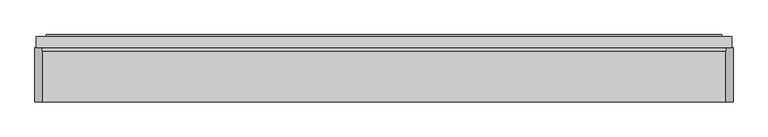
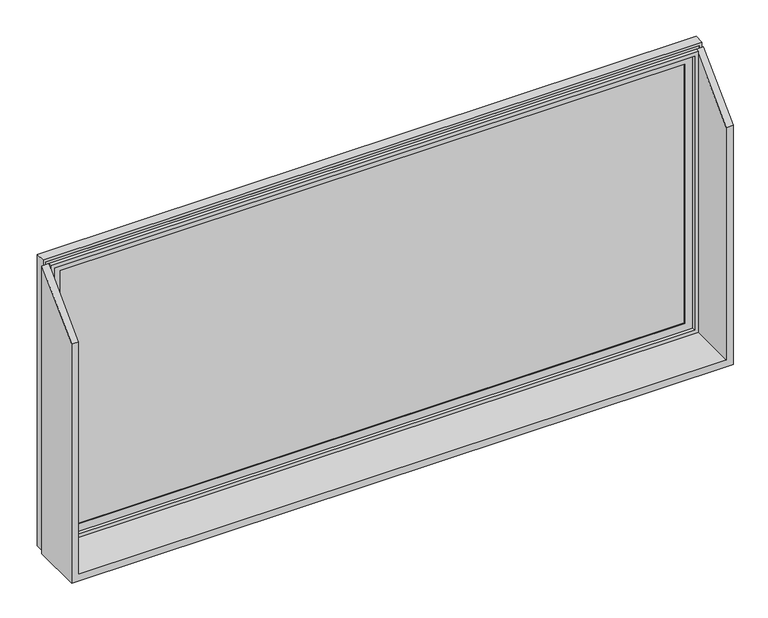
"""IFC4 building model written with IfcOpenShell, lengths in millimetres: plate geometry, SCISSOR PANEL : SCISSOR PANEL."""

from ifc_helpers import new_model, si_unit, frame, origin, place, context, project, spatial, polyline, outline, extrude, faceted_brep, source, transform, mapped, element, save


def plate_f63bed30(model_context):
    return source(origin(), model_context, "Body", "SolidModel", [
        faceted_brep([(850.0, 132.5, 0.0), (-850.0, 132.5, 0.0), (-850.0, 132.5, 782.5), (-832.5, 132.5, 782.5), (-832.5, 132.5, 17.5), (832.5, 132.5, 17.5), (832.5, 132.5, 782.5), (850.0, 132.5, 782.5), (-832.5, 0.0, 650.0), (-832.5, 0.0, 17.5), (832.5, 0.0, 17.5), (832.5, 0.0, 650.0), (850.0, 0.0, 650.0), (-850.0, 0.0, 650.0), (-850.0, 0.0, 0.0), (850.0, 0.0, 0.0)], [[[0, 1, 2, 3, 4, 5, 6, 7]], [[4, 3, 8, 9]], [[6, 5, 10, 11]], [[11, 12, 7, 6]], [[13, 8, 3, 2]], [[14, 15, 12, 11, 10, 9, 8, 13]], [[1, 14, 13, 2]], [[15, 14, 1, 0]], [[15, 0, 7, 12]], [[9, 10, 5, 4]]]),
        extrude(outline(polyline([(-819.5, 160.5), (819.5, 160.5), (819.5, 135.5), (-819.5, 135.5), (-819.5, 160.5)])), frame((0.0, 0.0, 30.5), z_axis=(0.0, 0.0, 1.0), x_axis=(1.0, 0.0, 0.0)), (0.0, 0.0, 1.0), 739.0),
        faceted_brep([(-802.5, 135.5, 752.5), (-802.5, 132.5, 752.5), (-802.5, 132.5, 47.5), (-802.5, 135.5, 47.5), (-819.5, 160.5, 769.5), (-819.5, 135.5, 769.5), (-819.5, 135.5, 30.5), (-819.5, 160.5, 30.5), (-802.5, 163.5, 752.5), (-802.5, 160.5, 752.5), (-802.5, 160.5, 47.5), (-802.5, 163.5, 47.5), (-822.5, 132.5, 772.5), (-822.5, 163.5, 772.5), (-822.5, 163.5, 27.5), (-822.5, 132.5, 27.5), (802.5, 132.5, 47.5), (802.5, 135.5, 47.5), (819.5, 135.5, 30.5), (819.5, 160.5, 30.5), (802.5, 160.5, 47.5), (802.5, 163.5, 47.5), (822.5, 163.5, 27.5), (822.5, 132.5, 27.5), (802.5, 132.5, 752.5), (802.5, 135.5, 752.5), (819.5, 135.5, 769.5), (819.5, 160.5, 769.5), (802.5, 160.5, 752.5), (802.5, 163.5, 752.5), (822.5, 163.5, 772.5), (822.5, 132.5, 772.5)], [[[0, 1, 2, 3]], [[4, 5, 6, 7]], [[8, 9, 10, 11]], [[12, 13, 14, 15]], [[3, 2, 16, 17]], [[7, 6, 18, 19]], [[11, 10, 20, 21]], [[15, 14, 22, 23]], [[17, 16, 24, 25]], [[19, 18, 26, 27]], [[21, 20, 28, 29]], [[23, 22, 30, 31]], [[15, 23, 31, 12], [1, 24, 16, 2]], [[25, 24, 1, 0]], [[5, 26, 18, 6], [3, 17, 25, 0]], [[27, 26, 5, 4]], [[7, 19, 27, 4], [9, 28, 20, 10]], [[29, 28, 9, 8]], [[13, 30, 22, 14], [11, 21, 29, 8]], [[31, 30, 13, 12]]]),
        faceted_brep([(-846.5, 132.5, 796.5), (-846.5, 158.75, 796.5), (-846.5, 158.75, 3.5), (-846.5, 132.5, 3.5), (-839.5, 150.0, 789.5), (-839.5, 132.5, 789.5), (-839.5, 132.5, 10.5), (-839.5, 150.0, 10.5), (-832.5, 123.75, 782.5), (-832.5, 150.0, 782.5), (-832.5, 150.0, 17.5), (-832.5, 123.75, 17.5), (-822.5, 158.75, 772.5), (-822.5, 123.75, 772.5), (-822.5, 123.75, 27.5), (-822.5, 158.75, 27.5), (846.5, 158.75, 3.5), (846.5, 132.5, 3.5), (839.5, 132.5, 10.5), (839.5, 150.0, 10.5), (832.5, 150.0, 17.5), (832.5, 123.75, 17.5), (822.5, 123.75, 27.5), (822.5, 158.75, 27.5), (846.5, 158.75, 796.5), (846.5, 132.5, 796.5), (839.5, 132.5, 789.5), (839.5, 150.0, 789.5), (832.5, 150.0, 782.5), (832.5, 123.75, 782.5), (822.5, 123.75, 772.5), (822.5, 158.75, 772.5)], [[[0, 1, 2, 3]], [[4, 5, 6, 7]], [[8, 9, 10, 11]], [[12, 13, 14, 15]], [[3, 2, 16, 17]], [[7, 6, 18, 19]], [[11, 10, 20, 21]], [[15, 14, 22, 23]], [[17, 16, 24, 25]], [[19, 18, 26, 27]], [[21, 20, 28, 29]], [[23, 22, 30, 31]], [[25, 24, 1, 0]], [[3, 17, 25, 0], [5, 26, 18, 6]], [[27, 26, 5, 4]], [[7, 19, 27, 4], [9, 28, 20, 10]], [[29, 28, 9, 8]], [[11, 21, 29, 8], [13, 30, 22, 14]], [[31, 30, 13, 12]], [[1, 24, 16, 2], [15, 23, 31, 12]]]),
        extrude(outline(polyline([(789.5, -839.5), (10.5, -839.5), (10.5, 839.5), (789.5, 839.5), (789.5, -839.5)]), holes=[polyline([(782.5, -832.5), (782.5, 832.5), (17.5, 832.5), (17.5, -832.5), (782.5, -832.5)])]), frame((0.0, 132.5, 0.0), z_axis=(0.0, 1.0, 0.0), x_axis=(0.0, 0.0, 1.0)), (0.0, 0.0, 1.0), 17.5),
    ])


if __name__ == "__main__":
    model = new_model("IFC4")
    model_context = context("Model", 3, world=origin())
    ifc_project = project(units=[si_unit("LENGTHUNIT", "METRE", prefix="MILLI")], contexts=[model_context])
    site = spatial("IfcSite", under=ifc_project)
    building = spatial("IfcBuilding", under=site)
    placement = place(None, origin())
    plate_shape = plate_f63bed30(model_context)
    element("IfcPlate", 1, ObjectType="SCISSOR PANEL : SCISSOR PANEL", at=placement, inside=building, context=model_context, shape_type="MappedRepresentation", body=[
        mapped(plate_shape, transform((0.0, 0.0, 0.0), x_axis=(1.0, 0.0, 0.0), y_axis=(0.0, 1.0, 0.0), z_axis=(0.0, 0.0, 1.0))),
    ])
    save(model, "model.ifc")
